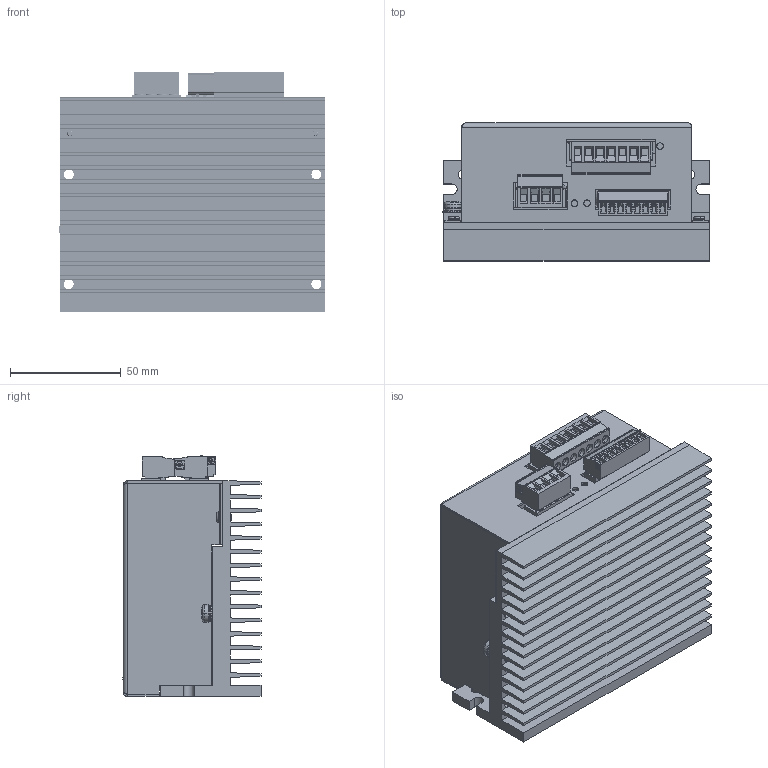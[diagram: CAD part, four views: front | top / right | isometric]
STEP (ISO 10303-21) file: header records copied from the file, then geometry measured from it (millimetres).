
FILE_DESCRIPTION((''),'2;1');
FILE_NAME('LW1A3050N081-00_ASM','2012-11-09T',('Renato Bisson'),(''),'PRO/ENGINEER BY PARAMETRIC TECHNOLOGY CORPORATION, 2006320','PRO/ENGINEER BY PARAMETRIC TECHNOLOGY CORPORATION, 2006320','');
FILE_SCHEMA(('CONFIG_CONTROL_DESIGN'));
Length unit declared in the file: millimetre
Products named in the file (46): RA-DLD01-00; BOCCOLA_M2E5X5; RA-DLD01_ASM; DLD01-03; DLD01-00_SHEET; 1803332; 1803633; SMD_SW_DIP8_90; TO263; C-0146130-06-3-K; SIDELED_VERDE_SMD; CE_16X31E5_P7E62_ORIZZONTALE; DISTANZIALE_IB4_2E5; TCC_M2E5X06; CDRH127; 1757268; 1757035; SMD_4-DIPSWITCH_P50; C-1241050-05-A7; DLD01V10-03_ASM; DIST_MF_M2E5X30; DLX02-00; KBU6G_5MM; CE_18X40_P7E62_ORRIZZONTALE; NTC_DIAMETRO_22MM; 1757297; 1757064; PONTE_GSIB254_STANDARD; CE_12E5X20; FUSE_OMT125; FUSE_LITTELFUSE_451-453; PORTAFUSE_OMH125; FUSEHOLDER_OMT125_ASM; DLX02VNNRNN-00_ASM; MC_SCA-LW1A3050-00; TCC_M2E5X05; MAR-PN4; MAR_SN4; TCC_M4X08; M3X14_SVASATA_CROCE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
Assembly tree (74 placements, depth 4):
  LW1A3050N081-00_ASM
    RA-DLD01_ASM
      RA-DLD01-00
      BOCCOLA_M2E5X5  x2
    DLD01V10-03_ASM
      DLD01-03
      DLD01-00_SHEET
      1803332
      1803633
      SMD_SW_DIP8_90
      TO263  x8
      C-0146130-06-3-K
      SIDELED_VERDE_SMD  x2
      CE_16X31E5_P7E62_ORIZZONTALE  x2
      DISTANZIALE_IB4_2E5  x4
      TCC_M2E5X06  x4
      CDRH127
      1757268
      1757035
      SMD_4-DIPSWITCH_P50
      C-1241050-05-A7
    DIST_MF_M2E5X30  x3
    DLX02VNNRNN-00_ASM
      DLX02-00
      KBU6G_5MM
      CE_18X40_P7E62_ORRIZZONTALE  x4
      NTC_DIAMETRO_22MM
      1757297
      1757064
      PONTE_GSIB254_STANDARD
      CE_12E5X20
      SIDELED_VERDE_SMD
      FUSE_OMT125
      FUSE_LITTELFUSE_451-453
      PORTAFUSE_OMH125
      FUSEHOLDER_OMT125_ASM
        PORTAFUSE_OMH125
        FUSE_OMT125
    MC_SCA-LW1A3050-00
    TCC_M2E5X05  x5
    MAR-PN4
    MAR_SN4
    TCC_M4X08
    M3X14_SVASATA_CROCE
    MAR-PN3
    MAR_SN3
    MAD3
    WIRE_YG
    WIRE_RED  x2
Bounding box: 120.5 x 62.4 x 108.95 mm (x, y, z)
Volume: 276179.8 mm3; surface area: 234252.9 mm2
Topology: 68 solids, 80 shells, 6222 faces, 15658 edges, 10003 vertices
Faces by surface type: plane 4359, cylinder 1342, torus 160, sphere 142, cone 126, bspline 77, extrusion 16
Entity records: 230394 total; most frequent: CARTESIAN_POINT 40023, ORIENTED_EDGE 26576, DIRECTION 26076, PRESENTATION_STYLE_ASSIGNMENT 16018, STYLED_ITEM 13376, CURVE_STYLE 13326, EDGE_CURVE 13326, VECTOR 9776
